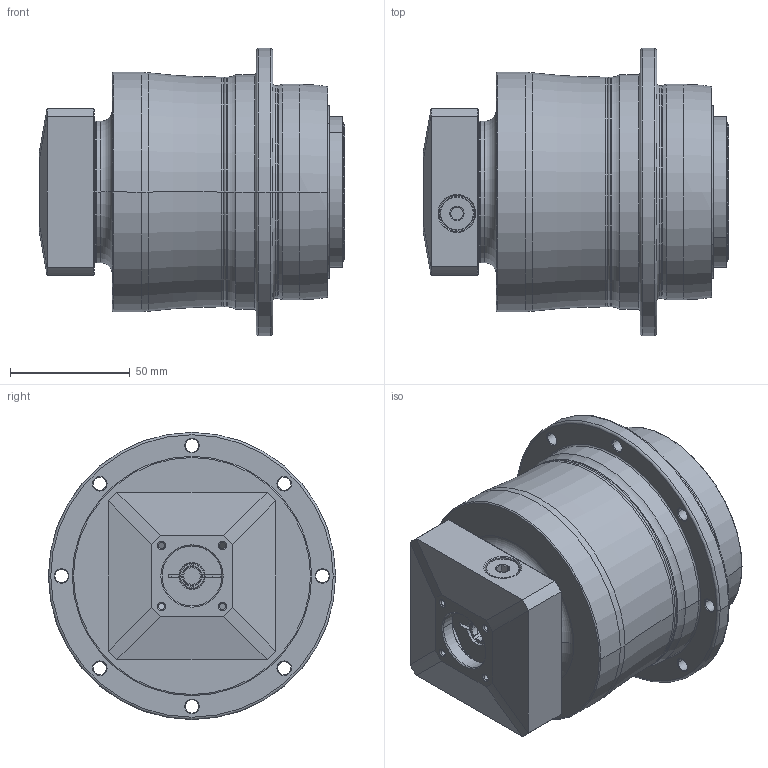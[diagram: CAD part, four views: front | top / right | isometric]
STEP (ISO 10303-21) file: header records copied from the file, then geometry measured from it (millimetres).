
FILE_DESCRIPTION((''),'2;1');
FILE_NAME('AH090_2ST_8-P0409100101_ASM','2016-08-03T',('d01943'),(''),'PRO/ENGINEER BY PARAMETRIC TECHNOLOGY CORPORATION, 2008410','PRO/ENGINEER BY PARAMETRIC TECHNOLOGY CORPORATION, 2008410','');
FILE_SCHEMA(('CONFIG_CONTROL_DESIGN'));
Length unit declared in the file: millimetre
Products named in the file (8): P0278300003; P0359300002; P1317300001; P0409100101; P0503100005; P0912200001; 21711410012; AH090_2ST_8-P0409100101_ASM
Assembly tree (7 placements, depth 2):
  AH090_2ST_8-P0409100101_ASM
    P0278300003
    P0359300002
    P1317300001
    P0409100101
    P0503100005
    P0912200001
    21711410012
Bounding box: 127.5 x 120 x 120 mm (x, y, z)
Volume: 753285.8 mm3; surface area: 122114 mm2
Topology: 8 solids, 8 shells, 510 faces, 1171 edges, 693 vertices
Faces by surface type: cylinder 196, cone 144, plane 94, torus 60, bspline 16
Entity records: 19034 total; most frequent: CARTESIAN_POINT 7273, DIRECTION 2631, ORIENTED_EDGE 2266, EDGE_CURVE 1133, AXIS2_PLACEMENT_3D 1110, VERTEX_POINT 693, EDGE_LOOP 602, CIRCLE 601
